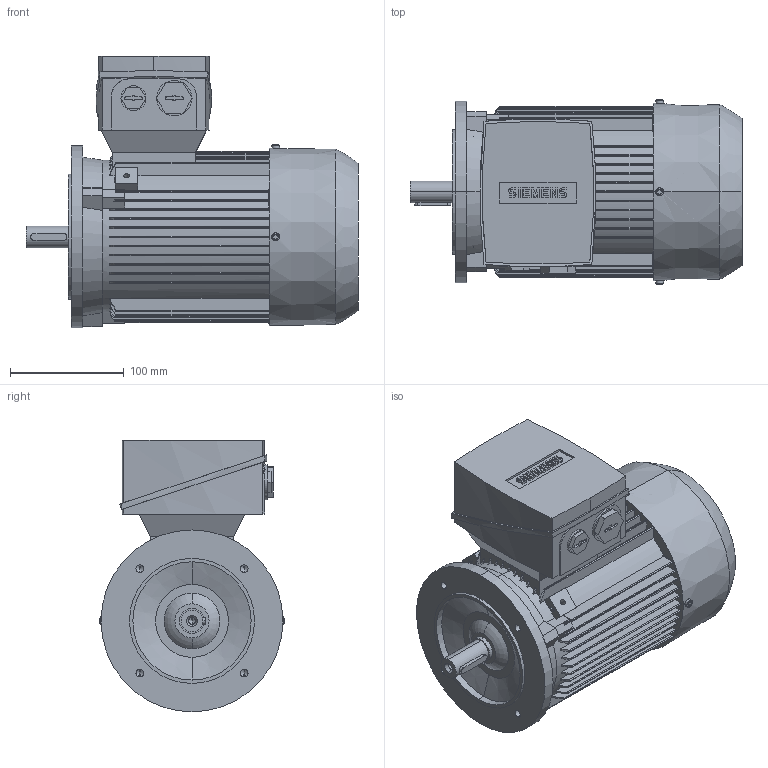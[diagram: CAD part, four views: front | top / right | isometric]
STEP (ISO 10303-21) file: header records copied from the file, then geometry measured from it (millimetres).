
FILE_DESCRIPTION(('STEP AP214'),'1');
FILE_NAME('cctmp_31CC352C-38C8-498A-B19C-039D1D12EFB3_2021_11_3_11_37_56_459..stp','2021-11-03T10:37:56',('SIEMENS A&D'),('CADClick - www.CADClick.com'),'Spatial InterOp 3D',' ','unknown authorization');
FILE_SCHEMA(('AUTOMOTIVE_DESIGN'));
Length unit declared in the file: millimetre
Products named in the file (1): 2021_11_03__11-37-56-459
Bounding box: 292 x 162 x 239 mm (x, y, z)
Volume: 4994233.1 mm3; surface area: 309816.2 mm2
Topology: 1 solids, 1 shells, 663 faces, 1831 edges, 1205 vertices
Faces by surface type: plane 408, cylinder 177, torus 48, cone 30
Entity records: 28181 total; most frequent: CARTESIAN_POINT 5814, ORIENTED_EDGE 3642, DIRECTION 3478, EDGE_CURVE 1821, VERTEX_POINT 1205, LINE 1186, VECTOR 1186, AXIS2_PLACEMENT_3D 1146
